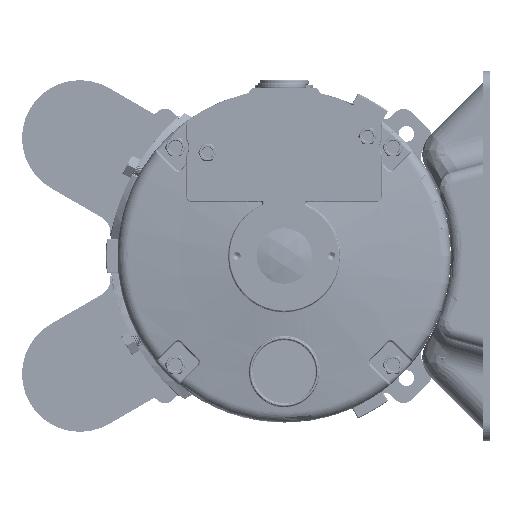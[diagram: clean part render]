
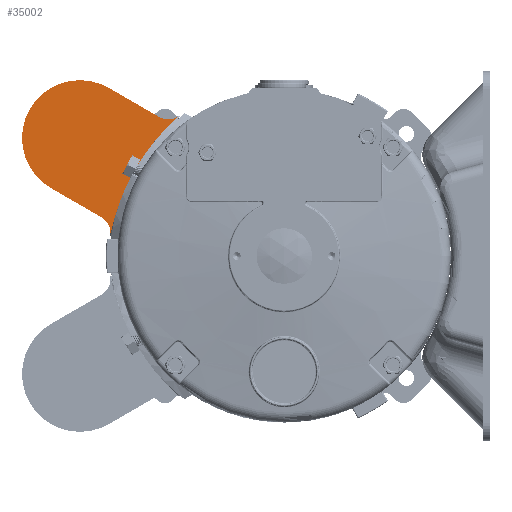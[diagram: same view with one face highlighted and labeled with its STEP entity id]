
A CAD part, left-side view. The second image highlights one B-rep face of the part: STEP entity #35002.
In plain terms, the highlighted planar face has unit normal (-1, 0, 0).
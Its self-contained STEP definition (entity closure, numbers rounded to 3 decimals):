
#1340 = VERTEX_POINT ( 'NONE', #43929 ) ;
#2895 = VECTOR ( 'NONE', #111957, 1000. ) ;
#3001 = VERTEX_POINT ( 'NONE', #40076 ) ;
#7324 = CARTESIAN_POINT ( 'NONE',  ( -87.108, 90.388, 330.328 ) ) ;
#11668 = CARTESIAN_POINT ( 'NONE',  ( -87.108, 51.1, 336.512 ) ) ;
#14275 = VERTEX_POINT ( 'NONE', #71690 ) ;
#17188 = LINE ( 'NONE', #53816, #50916 ) ;
#22346 = EDGE_CURVE ( 'NONE', #3001, #14275, #17188, .T. ) ;
#24378 = DIRECTION ( 'NONE',  ( 0., 0.866, 0.5 ) ) ;
#26286 = AXIS2_PLACEMENT_3D ( 'NONE', #41816, #78429, #114992 ) ;
#26577 = AXIS2_PLACEMENT_3D ( 'NONE', #7324, #43983, #80577 ) ;
#26707 = DIRECTION ( 'NONE',  ( 1., 0., 0. ) ) ;
#27609 = EDGE_CURVE ( 'NONE', #106782, #1340, #69995, .T. ) ;
#28534 = CIRCLE ( 'NONE', #43930, 8. ) ;
#31651 = CARTESIAN_POINT ( 'NONE',  ( -87.108, 85.166, 289.207 ) ) ;
#32230 = VERTEX_POINT ( 'NONE', #65711 ) ;
#34219 = ORIENTED_EDGE ( 'NONE', *, *, #110456, .T. ) ;
#34736 = DIRECTION ( 'NONE',  ( 1., 0., 0. ) ) ;
#35002 = ADVANCED_FACE ( 'NONE', ( #35705 ), #72309, .F. ) ;
#35705 = FACE_OUTER_BOUND ( 'NONE', #55118, .T. ) ;
#37069 = EDGE_CURVE ( 'NONE', #70731, #83353, #93908, .T. ) ;
#38780 = LINE ( 'NONE', #75393, #2895 ) ;
#40076 = CARTESIAN_POINT ( 'NONE',  ( -87.108, 48.105, 339.302 ) ) ;
#40280 = CARTESIAN_POINT ( 'NONE',  ( -87.108, 102.888, 308.677 ) ) ;
#40521 = ORIENTED_EDGE ( 'NONE', *, *, #22346, .T. ) ;
#41816 = CARTESIAN_POINT ( 'NONE',  ( -87.108, -13.076, 270.593 ) ) ;
#43929 = CARTESIAN_POINT ( 'NONE',  ( -87.108, 77.167, 289.307 ) ) ;
#43930 = AXIS2_PLACEMENT_3D ( 'NONE', #31651, #68259, #104847 ) ;
#43983 = DIRECTION ( 'NONE',  ( -1., 0., 0. ) ) ;
#45284 = ORIENTED_EDGE ( 'NONE', *, *, #37069, .T. ) ;
#48335 = DIRECTION ( 'NONE',  ( 0., 0.866, 0.5 ) ) ;
#50916 = VECTOR ( 'NONE', #90416, 1000. ) ;
#53568 = EDGE_CURVE ( 'NONE', #14275, #70731, #110379, .T. ) ;
#53816 = CARTESIAN_POINT ( 'NONE',  ( -87.108, 48.253, 339.387 ) ) ;
#55118 = EDGE_LOOP ( 'NONE', ( #65821, #66783, #73389, #105264, #34219, #40521, #99506, #45284 ) ) ;
#57295 = EDGE_CURVE ( 'NONE', #83353, #58011, #78363, .T. ) ;
#58011 = VERTEX_POINT ( 'NONE', #40280 ) ;
#58683 = AXIS2_PLACEMENT_3D ( 'NONE', #116936, #34736, #71346 ) ;
#60682 = VECTOR ( 'NONE', #24378, 1000. ) ;
#63315 = DIRECTION ( 'NONE',  ( 0., 0., 1. ) ) ;
#65711 = CARTESIAN_POINT ( 'NONE',  ( -87.108, 81.166, 296.136 ) ) ;
#65821 = ORIENTED_EDGE ( 'NONE', *, *, #57295, .T. ) ;
#66783 = ORIENTED_EDGE ( 'NONE', *, *, #75230, .T. ) ;
#68259 = DIRECTION ( 'NONE',  ( 1., 0., 0. ) ) ;
#69995 = LINE ( 'NONE', #106565, #60682 ) ;
#70731 = VERTEX_POINT ( 'NONE', #82842 ) ;
#71346 = DIRECTION ( 'NONE',  ( 0., 1., 0. ) ) ;
#71690 = CARTESIAN_POINT ( 'NONE',  ( -87.108, 48.253, 339.387 ) ) ;
#72309 = PLANE ( 'NONE',  #98042 ) ;
#73355 = VECTOR ( 'NONE', #48335, 1000. ) ;
#73389 = ORIENTED_EDGE ( 'NONE', *, *, #112912, .T. ) ;
#75230 = EDGE_CURVE ( 'NONE', #58011, #32230, #38780, .T. ) ;
#75393 = CARTESIAN_POINT ( 'NONE',  ( -87.108, 124.539, 321.177 ) ) ;
#77748 = CARTESIAN_POINT ( 'NONE',  ( -87.108, 77.888, 351.978 ) ) ;
#78072 = CIRCLE ( 'NONE', #26286, 92. ) ;
#78363 = CIRCLE ( 'NONE', #26577, 25. ) ;
#78429 = DIRECTION ( 'NONE',  ( 1., 0., 0. ) ) ;
#79363 = CARTESIAN_POINT ( 'NONE',  ( -87.108, 77.018, 289.222 ) ) ;
#80577 = DIRECTION ( 'NONE',  ( 0., 0.866, 0.5 ) ) ;
#82842 = CARTESIAN_POINT ( 'NONE',  ( -87.108, 56.166, 339.437 ) ) ;
#83353 = VERTEX_POINT ( 'NONE', #77748 ) ;
#90416 = DIRECTION ( 'NONE',  ( 0., 0.866, 0.5 ) ) ;
#93908 = LINE ( 'NONE', #11668, #73355 ) ;
#98042 = AXIS2_PLACEMENT_3D ( 'NONE', #108903, #26707, #63315 ) ;
#99506 = ORIENTED_EDGE ( 'NONE', *, *, #53568, .T. ) ;
#104847 = DIRECTION ( 'NONE',  ( 0., 1., 0. ) ) ;
#105264 = ORIENTED_EDGE ( 'NONE', *, *, #27609, .F. ) ;
#106565 = CARTESIAN_POINT ( 'NONE',  ( -87.108, 77.018, 289.222 ) ) ;
#106782 = VERTEX_POINT ( 'NONE', #79363 ) ;
#108903 = CARTESIAN_POINT ( 'NONE',  ( -87.108, -13.076, 270.593 ) ) ;
#110379 = CIRCLE ( 'NONE', #58683, 8. ) ;
#110456 = EDGE_CURVE ( 'NONE', #106782, #3001, #78072, .T. ) ;
#111957 = DIRECTION ( 'NONE',  ( 0., -0.866, -0.5 ) ) ;
#112912 = EDGE_CURVE ( 'NONE', #32230, #1340, #28534, .T. ) ;
#114992 = DIRECTION ( 'NONE',  ( 0., -0.5, 0.866 ) ) ;
#116936 = CARTESIAN_POINT ( 'NONE',  ( -87.108, 52.166, 346.365 ) ) ;
